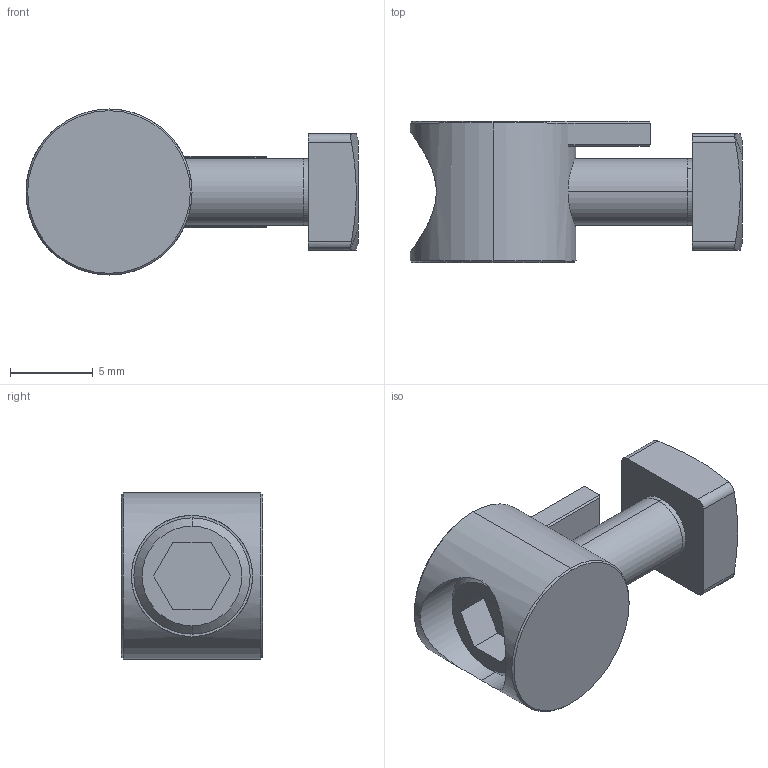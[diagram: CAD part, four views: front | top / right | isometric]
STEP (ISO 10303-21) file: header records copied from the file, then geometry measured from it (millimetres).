
FILE_DESCRIPTION (( 'STEP AP203' ), '1' );
FILE_NAME ('WSH0410.STEP', '2024-02-17T06:09:14', ( '' ), ( '' ), 'SwSTEP 2.0', 'SolidWorks 2022', '' );
FILE_SCHEMA (( 'CONFIG_CONTROL_DESIGN' ));
Length unit declared in the file: millimetre
Products named in the file (4): HSC0414; PN4M4; WSH0410
Assembly tree (3 placements, depth 2):
  WSH0410
    WSH0410
    HSC0414
    PN4M4
Bounding box: 20 x 8.5 x 10 mm (x, y, z)
Volume: 813 mm3; surface area: 1177.6 mm2
Topology: 3 solids, 3 shells, 94 faces, 215 edges, 130 vertices
Faces by surface type: cone 35, cylinder 30, plane 29
Entity records: 3186 total; most frequent: CARTESIAN_POINT 621, DIRECTION 484, ORIENTED_EDGE 430, EDGE_CURVE 215, AXIS2_PLACEMENT_3D 187, VERTEX_POINT 130, VECTOR 110, LINE 110
